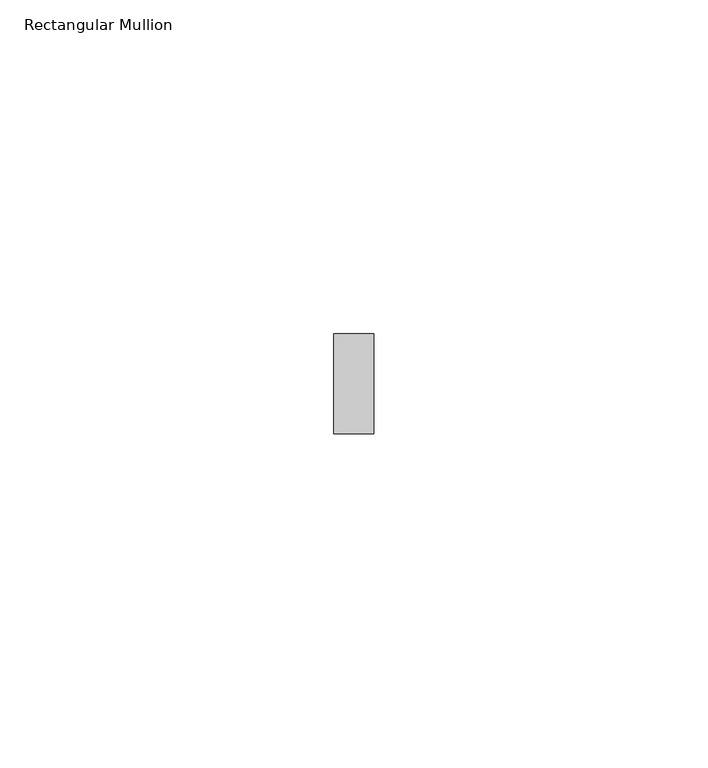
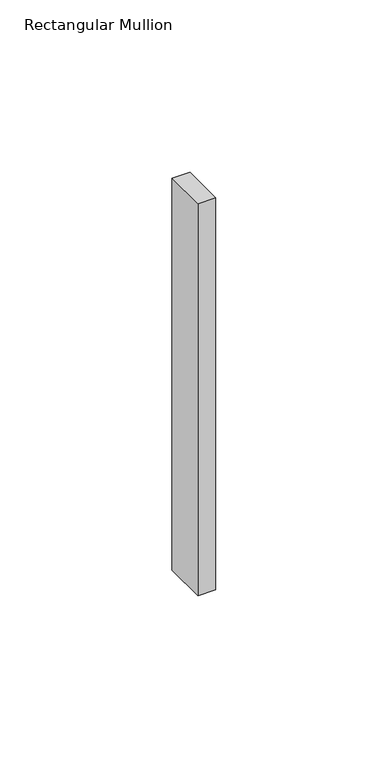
"""IFC4 building model written with IfcOpenShell, lengths in millimetres: member geometry, Rectangular Mullion : ARQ_HERR_15X6mm."""

from ifc_helpers import new_model, si_unit, frame, origin, place, context, project, spatial, polyline, outline, extrude, source, transform, mapped, element, save


def rectangular_mullion_9a28259a(model_context):
    return source(origin(), model_context, "Body", "SweptSolid", [
        extrude(outline(polyline([(0.0, 7.5), (0.0, -7.5), (-6.0, -7.5), (-6.0, 7.5), (0.0, 7.5)])), frame((0.0, 0.0, -138.8888889), z_axis=(0.0, 0.0, 1.0), x_axis=(1.0, 0.0, 0.0)), (0.0, 0.0, 1.0), 138.8888889),
    ])


if __name__ == "__main__":
    model = new_model("IFC4")
    model_context = context("Model", 3, world=origin())
    ifc_project = project(units=[si_unit("LENGTHUNIT", "METRE", prefix="MILLI")], contexts=[model_context])
    site = spatial("IfcSite", under=ifc_project)
    building = spatial("IfcBuilding", under=site)
    placement = place(None, origin())
    rectangular_mullion_shape = rectangular_mullion_9a28259a(model_context)
    element("IfcMember", 1, ObjectType="Rectangular Mullion : ARQ_HERR_15X6mm", at=placement, inside=building, context=model_context, shape_type="MappedRepresentation", body=[
        mapped(rectangular_mullion_shape, transform((0.0, 0.0, 0.0), x_axis=(1.0, 0.0, 0.0), y_axis=(0.0, 1.0, 0.0), z_axis=(0.0, 0.0, 1.0))),
    ])
    save(model, "model.ifc")
